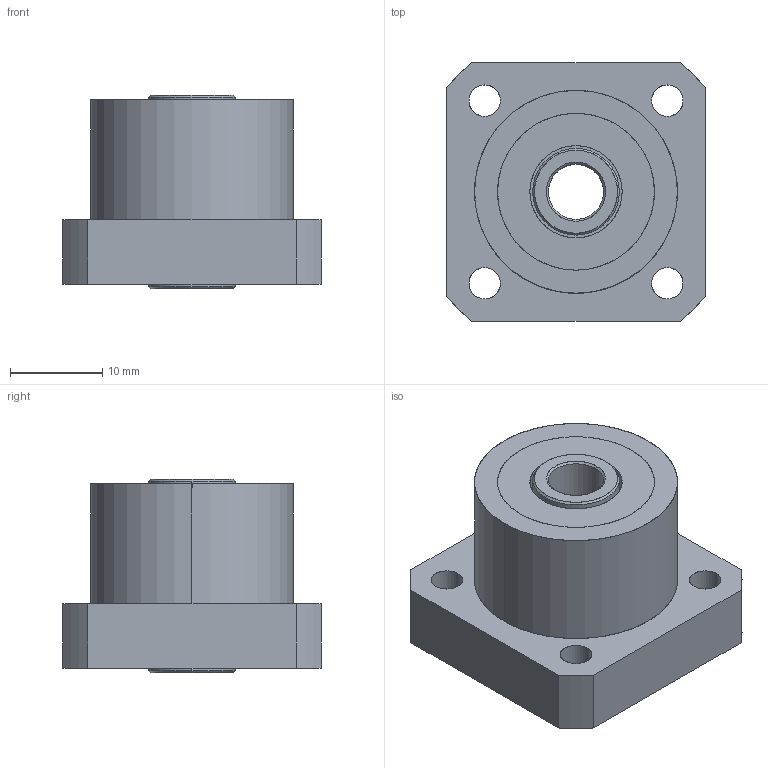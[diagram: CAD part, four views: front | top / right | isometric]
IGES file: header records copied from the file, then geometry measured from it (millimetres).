
Start section: SolidWorks IGES file using analytic representation for surfaces
Global section: file name: E:\同创达图纸\产品示意图\3D选型图\支撑座\FK系列\FK06.IGS; native system: SolidWorks 2012; preprocessor: SolidWorks 2012; author: gao; date: 130702.204319; units: millimetre
Bounding box: 28 x 28 x 21 mm (x, y, z)
Surface area: 6128.3 mm2 (no closed solid volume)
Topology: 0 solids, 0 shells, 81 faces, 1560 edges, 1560 vertices
Faces by surface type: revolution 60, bspline 21
